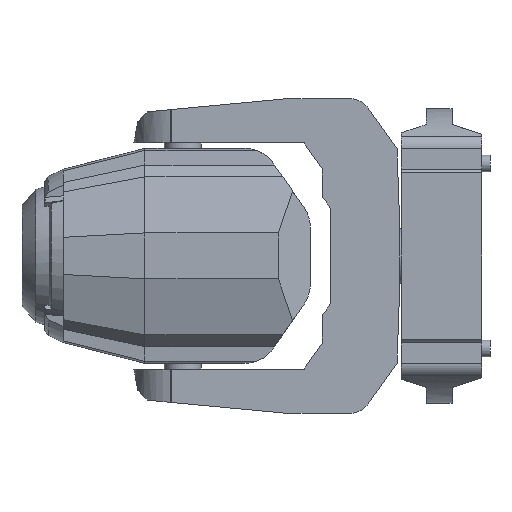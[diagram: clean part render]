
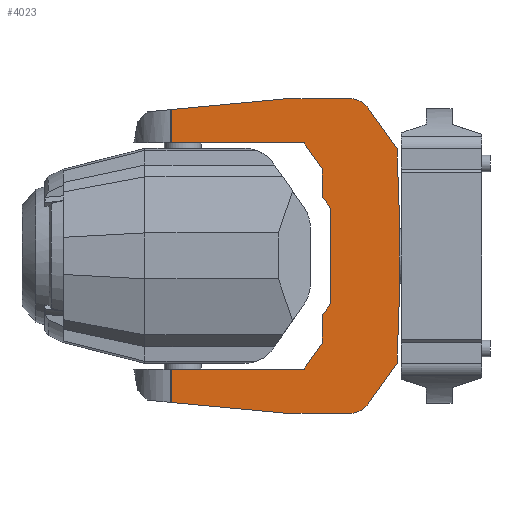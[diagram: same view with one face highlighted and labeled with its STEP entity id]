
A CAD part, left-side view. The second image highlights one B-rep face of the part: STEP entity #4023.
In plain terms, the highlighted planar face has unit normal (-1, 0, 0) as drawn and (0, -1, 0) by its records, which use the part's own axes.
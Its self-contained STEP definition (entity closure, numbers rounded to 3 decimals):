
#346=LINE('',#6170,#770);
#347=LINE('',#6173,#771);
#348=LINE('',#6175,#772);
#349=LINE('',#6177,#773);
#350=LINE('',#6179,#774);
#351=LINE('',#6181,#775);
#352=LINE('',#6183,#776);
#353=LINE('',#6185,#777);
#354=LINE('',#6187,#778);
#355=LINE('',#6189,#779);
#356=LINE('',#6191,#780);
#357=LINE('',#6193,#781);
#358=LINE('',#6195,#782);
#359=LINE('',#6197,#783);
#360=LINE('',#6201,#784);
#361=LINE('',#6203,#785);
#362=LINE('',#6205,#786);
#363=LINE('',#6207,#787);
#364=LINE('',#6209,#788);
#365=LINE('',#6213,#789);
#770=VECTOR('',#5025,1000.);
#771=VECTOR('',#5026,1000.);
#772=VECTOR('',#5027,1000.);
#773=VECTOR('',#5028,1000.);
#774=VECTOR('',#5029,1000.);
#775=VECTOR('',#5030,1000.);
#776=VECTOR('',#5031,1000.);
#777=VECTOR('',#5032,1000.);
#778=VECTOR('',#5033,1000.);
#779=VECTOR('',#5034,1000.);
#780=VECTOR('',#5035,1000.);
#781=VECTOR('',#5036,1000.);
#782=VECTOR('',#5037,1000.);
#783=VECTOR('',#5038,1000.);
#784=VECTOR('',#5041,1000.);
#785=VECTOR('',#5042,1000.);
#786=VECTOR('',#5043,1000.);
#787=VECTOR('',#5044,1000.);
#788=VECTOR('',#5045,1000.);
#789=VECTOR('',#5048,1000.);
#1486=ORIENTED_EDGE('',*,*,#2418,.T.);
#1487=ORIENTED_EDGE('',*,*,#2419,.T.);
#1488=ORIENTED_EDGE('',*,*,#2420,.T.);
#1489=ORIENTED_EDGE('',*,*,#2421,.T.);
#1490=ORIENTED_EDGE('',*,*,#2422,.T.);
#1491=ORIENTED_EDGE('',*,*,#2423,.T.);
#1492=ORIENTED_EDGE('',*,*,#2424,.T.);
#1493=ORIENTED_EDGE('',*,*,#2425,.T.);
#1494=ORIENTED_EDGE('',*,*,#2426,.T.);
#1495=ORIENTED_EDGE('',*,*,#2427,.T.);
#1496=ORIENTED_EDGE('',*,*,#2428,.T.);
#1497=ORIENTED_EDGE('',*,*,#2429,.T.);
#1498=ORIENTED_EDGE('',*,*,#2430,.T.);
#1499=ORIENTED_EDGE('',*,*,#2431,.T.);
#1500=ORIENTED_EDGE('',*,*,#2432,.T.);
#1501=ORIENTED_EDGE('',*,*,#2433,.T.);
#1502=ORIENTED_EDGE('',*,*,#2434,.T.);
#1503=ORIENTED_EDGE('',*,*,#2435,.T.);
#1504=ORIENTED_EDGE('',*,*,#2436,.T.);
#1505=ORIENTED_EDGE('',*,*,#2437,.T.);
#1506=ORIENTED_EDGE('',*,*,#2438,.T.);
#1507=ORIENTED_EDGE('',*,*,#2439,.T.);
#2418=EDGE_CURVE('',#2930,#2931,#346,.T.);
#2419=EDGE_CURVE('',#2931,#2932,#347,.T.);
#2420=EDGE_CURVE('',#2932,#2933,#348,.T.);
#2421=EDGE_CURVE('',#2933,#2934,#349,.T.);
#2422=EDGE_CURVE('',#2934,#2935,#350,.T.);
#2423=EDGE_CURVE('',#2935,#2936,#351,.T.);
#2424=EDGE_CURVE('',#2936,#2937,#352,.T.);
#2425=EDGE_CURVE('',#2937,#2938,#353,.T.);
#2426=EDGE_CURVE('',#2938,#2939,#354,.T.);
#2427=EDGE_CURVE('',#2939,#2940,#355,.T.);
#2428=EDGE_CURVE('',#2940,#2941,#356,.T.);
#2429=EDGE_CURVE('',#2941,#2942,#357,.T.);
#2430=EDGE_CURVE('',#2942,#2943,#358,.T.);
#2431=EDGE_CURVE('',#2943,#2944,#359,.T.);
#2432=EDGE_CURVE('',#2944,#2945,#3189,.T.);
#2433=EDGE_CURVE('',#2945,#2946,#360,.T.);
#2434=EDGE_CURVE('',#2946,#2947,#361,.T.);
#2435=EDGE_CURVE('',#2947,#2948,#362,.T.);
#2436=EDGE_CURVE('',#2948,#2949,#363,.T.);
#2437=EDGE_CURVE('',#2949,#2950,#364,.T.);
#2438=EDGE_CURVE('',#2950,#2951,#3190,.T.);
#2439=EDGE_CURVE('',#2951,#2930,#365,.T.);
#2930=VERTEX_POINT('',#6171);
#2931=VERTEX_POINT('',#6172);
#2932=VERTEX_POINT('',#6174);
#2933=VERTEX_POINT('',#6176);
#2934=VERTEX_POINT('',#6178);
#2935=VERTEX_POINT('',#6180);
#2936=VERTEX_POINT('',#6182);
#2937=VERTEX_POINT('',#6184);
#2938=VERTEX_POINT('',#6186);
#2939=VERTEX_POINT('',#6188);
#2940=VERTEX_POINT('',#6190);
#2941=VERTEX_POINT('',#6192);
#2942=VERTEX_POINT('',#6194);
#2943=VERTEX_POINT('',#6196);
#2944=VERTEX_POINT('',#6198);
#2945=VERTEX_POINT('',#6200);
#2946=VERTEX_POINT('',#6202);
#2947=VERTEX_POINT('',#6204);
#2948=VERTEX_POINT('',#6206);
#2949=VERTEX_POINT('',#6208);
#2950=VERTEX_POINT('',#6210);
#2951=VERTEX_POINT('',#6212);
#3189=CIRCLE('',#4346,25.);
#3190=CIRCLE('',#4347,25.);
#3345=EDGE_LOOP('',(#1486,#1487,#1488,#1489,#1490,#1491,#1492,#1493,#1494,
#1495,#1496,#1497,#1498,#1499,#1500,#1501,#1502,#1503,#1504,#1505,#1506,
#1507));
#3605=FACE_BOUND('',#3345,.T.);
#3831=PLANE('',#4345);
#4023=ADVANCED_FACE('',(#3605),#3831,.T.);
#4345=AXIS2_PLACEMENT_3D('',#6169,#5023,#5024);
#4346=AXIS2_PLACEMENT_3D('',#6199,#5039,#5040);
#4347=AXIS2_PLACEMENT_3D('',#6211,#5046,#5047);
#5023=DIRECTION('',(0.,-1.,0.));
#5024=DIRECTION('',(0.,0.,-1.));
#5025=DIRECTION('',(0.996,0.,0.094));
#5026=DIRECTION('',(0.,0.,1.));
#5027=DIRECTION('',(-1.,0.,0.));
#5028=DIRECTION('',(-0.574,0.,0.819));
#5029=DIRECTION('',(0.,0.,1.));
#5030=DIRECTION('',(-0.585,0.,0.811));
#5031=DIRECTION('',(0.,0.,1.));
#5032=DIRECTION('',(0.585,0.,0.811));
#5033=DIRECTION('',(0.,0.,1.));
#5034=DIRECTION('',(0.574,0.,0.819));
#5035=DIRECTION('',(1.,0.,0.));
#5036=DIRECTION('',(0.,0.,1.));
#5037=DIRECTION('',(-0.996,0.,0.094));
#5038=DIRECTION('',(-1.,0.,0.));
#5039=DIRECTION('',(0.,-1.,0.));
#5040=DIRECTION('',(1.,0.,0.));
#5041=DIRECTION('',(-0.578,0.,-0.816));
#5042=DIRECTION('',(-0.035,0.,-0.999));
#5043=DIRECTION('',(0.,0.,-1.));
#5044=DIRECTION('',(0.035,0.,-0.999));
#5045=DIRECTION('',(0.578,0.,-0.816));
#5046=DIRECTION('',(0.,-1.,0.));
#5047=DIRECTION('',(1.,0.,0.));
#5048=DIRECTION('',(1.,0.,0.));
#6169=CARTESIAN_POINT('',(19.914,-52.,-146.331));
#6170=CARTESIAN_POINT('',(239.979,-52.,-156.816));
#6171=CARTESIAN_POINT('',(85.814,-52.,-171.331));
#6172=CARTESIAN_POINT('',(213.173,-52.,-159.34));
#6173=CARTESIAN_POINT('',(213.173,-52.,-146.331));
#6174=CARTESIAN_POINT('',(213.173,-52.,-123.));
#6175=CARTESIAN_POINT('',(69.357,-52.,-123.));
#6176=CARTESIAN_POINT('',(69.357,-52.,-123.));
#6177=CARTESIAN_POINT('',(69.357,-52.,-123.));
#6178=CARTESIAN_POINT('',(49.607,-52.,-94.794));
#6179=CARTESIAN_POINT('',(49.607,-52.,-94.794));
#6180=CARTESIAN_POINT('',(49.607,-52.,-64.754));
#6181=CARTESIAN_POINT('',(49.607,-52.,-64.754));
#6182=CARTESIAN_POINT('',(40.288,-52.,-51.821));
#6183=CARTESIAN_POINT('',(40.288,-52.,-51.821));
#6184=CARTESIAN_POINT('',(40.288,-52.,51.821));
#6185=CARTESIAN_POINT('',(49.607,-52.,64.754));
#6186=CARTESIAN_POINT('',(49.607,-52.,64.754));
#6187=CARTESIAN_POINT('',(49.607,-52.,94.794));
#6188=CARTESIAN_POINT('',(49.607,-52.,94.794));
#6189=CARTESIAN_POINT('',(69.357,-52.,123.));
#6190=CARTESIAN_POINT('',(69.357,-52.,123.));
#6191=CARTESIAN_POINT('',(69.357,-52.,123.));
#6192=CARTESIAN_POINT('',(213.173,-52.,123.));
#6193=CARTESIAN_POINT('',(213.173,-52.,-146.331));
#6194=CARTESIAN_POINT('',(213.173,-52.,159.34));
#6195=CARTESIAN_POINT('',(239.979,-52.,156.816));
#6196=CARTESIAN_POINT('',(85.814,-52.,171.331));
#6197=CARTESIAN_POINT('',(85.814,-52.,171.331));
#6198=CARTESIAN_POINT('',(19.914,-52.,171.331));
#6199=CARTESIAN_POINT('',(19.914,-52.,146.331));
#6200=CARTESIAN_POINT('',(-0.485,-52.,160.784));
#6201=CARTESIAN_POINT('',(-31.848,-52.,116.516));
#6202=CARTESIAN_POINT('',(-31.848,-52.,116.516));
#6203=CARTESIAN_POINT('',(-34.346,-52.,45.));
#6204=CARTESIAN_POINT('',(-34.346,-52.,45.));
#6205=CARTESIAN_POINT('',(-34.346,-52.,45.));
#6206=CARTESIAN_POINT('',(-34.346,-52.,-45.));
#6207=CARTESIAN_POINT('',(-34.346,-52.,-45.));
#6208=CARTESIAN_POINT('',(-31.848,-52.,-116.516));
#6209=CARTESIAN_POINT('',(-31.848,-52.,-116.516));
#6210=CARTESIAN_POINT('',(-0.485,-52.,-160.784));
#6211=CARTESIAN_POINT('',(19.914,-52.,-146.331));
#6212=CARTESIAN_POINT('',(19.914,-52.,-171.331));
#6213=CARTESIAN_POINT('',(85.814,-52.,-171.331));
